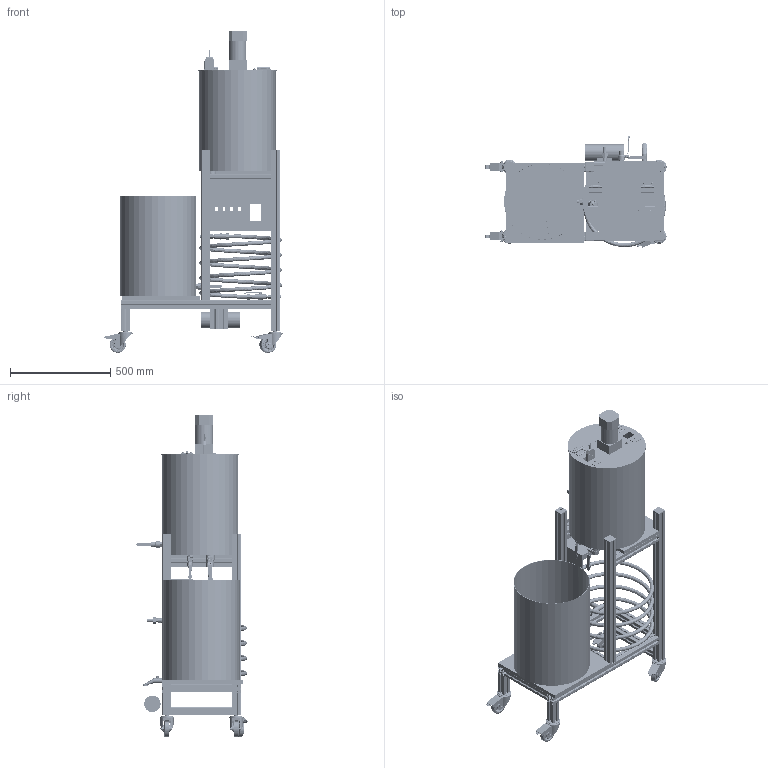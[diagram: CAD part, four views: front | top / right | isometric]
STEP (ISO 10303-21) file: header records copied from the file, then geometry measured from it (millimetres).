
FILE_DESCRIPTION(/* description */ ('Unknown'),/* implementation_level */ '2;1');
FILE_NAME(/* name */ '01_Asm_gesamt_final',/* time_stamp */ '2023-06-15T23:20:17+02:00',/* author */ ('Unknown'),/* organization */ ('Unknown'),/* preprocessor_version */ 'ST-DEVELOPER v18.102',/* originating_system */ 'Solid Edge',/* authorisation */ 'Unknown');
FILE_SCHEMA (('AUTOMOTIVE_DESIGN {1 0 10303 214 3 1 1}'));
Products named in the file (57): 01_Asm_gesamt_final; GestellRev01; profiles_fyapa4545-1100var; profiles_fyapa4545-745var; profiles_fyapa4545-300var; profiles_fyapa4545-800var; Auflage_Maischekessel; profiles_fyapa4040-300var; profiles_fyapa4545-100var; Auflage_LäuterbottichRev01; 451901-esd; profiles_fyapa4545-110var; Maischebottich_mit_Deckel; Deckel_Maischebottich_Bearbeitet_01; Motor_Maischebottich; Scharnier_Deckel; Rechteckprofil_Deckel_Hinten; M5_Mutter; Unterlegscheibe_M5; M6_Mutter; Rechteckprofil_Deckel; Ruehrwerk; M5x20; Winkelblech_Heizstab_groß; Winkelblech_Heizstab_klein; Unterlegscheibe_M5_mir6; Unterlegscheibe_M6; Rohr_Temperatursensor; Unterlegscheibe_M5_mir3; M5x30; Maischekessel_mit_Anschluessen; Maischekessel; Kugelhahn_1-2; Kugelhahn_1; Heizstab; Unterlegscheibe_M5_mir5; Unterlegscheibe_M5_mir51; Asm_Kupplung; Klemme; Unterlegscheibe_M5_mir7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
Assembly tree (126 placements, depth 4):
  01_Asm_gesamt_final
    GestellRev01
      profiles_fyapa4545-1100var  x2
      profiles_fyapa4545-745var  x2
      profiles_fyapa4545-300var  x4
      profiles_fyapa4545-800var  x2
      Auflage_Maischekessel
      profiles_fyapa4040-300var  x4
      profiles_fyapa4545-100var  x2
      Auflage_LäuterbottichRev01
      451901-esd  x4
      profiles_fyapa4545-110var  x2
    Maischebottich_mit_Deckel
      Deckel_Maischebottich_Bearbeitet_01
      Motor_Maischebottich
      Scharnier_Deckel  x2
      Rechteckprofil_Deckel_Hinten
      M5_Mutter  x10
      Unterlegscheibe_M5  x5
      M6_Mutter  x4
      Rechteckprofil_Deckel
      Ruehrwerk
      M5x20  x4
      Winkelblech_Heizstab_groß
      Winkelblech_Heizstab_klein
      Unterlegscheibe_M5_mir6
      Unterlegscheibe_M6  x4
      Rohr_Temperatursensor
      Unterlegscheibe_M5_mir3  x2
      M5x30  x6
      Maischekessel_mit_Anschluessen
        Maischekessel
        Kugelhahn_1-2  x2
        Kugelhahn_1
      Heizstab
      Unterlegscheibe_M5_mir5  x4
      Unterlegscheibe_M5_mir51  x2
      Asm_Kupplung
        Klemme  x2
        Unterlegscheibe_M5
        M5_Mutter  x4
        M5x30  x4
        Unterlegscheibe_M5_mir7
        Unterlegscheibe_M5_mir8
        Unterlegscheibe_M5_mir71
      M8_Mutter
    Kappe_Aluprofil  x4
    Kühler
      Schneidrinng   x4
      Vaterteil_3_4_AG  x3
      WasserzaehlerVerschraubung  x3
      T-Stück_DN15  x2
      KupferrohrHelix
      Schlauchhelix
      Ablaufhahn
    Laeuterbottich_zusammenbau
      Laeuterbottich
      Laeuterblech
      Kugelhahn_1-2
    Pumpe
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Bounding box: 901.46 x 553.77 x 1600 mm (x, y, z)
Volume: 17748094.4 mm3; surface area: 10109666.6 mm2
Topology: 123 solids, 135 shells, 14444 faces, 38963 edges, 25559 vertices
Faces by surface type: plane 7264, cylinder 3335, bspline 2783, cone 743, torus 241, sphere 78
Full cylindrical faces by diameter (mm): 3.688 x4, 3.75 x1, 4 x4, 4.134 x14, 4.917 x4, 5 x14, 5.3 x18, 5.5 x35, 6 x5, 6.4 x4, 7 x16, 7.459 x1, 7.499 x5, 7.5 x1, 8 x18, 8.1 x1, 9 x8, 10 x24, 10.95 x3, 11 x3, 11.63 x8, 12 x21, 12.7 x4, 12.95 x1, 13 x1, 13.324 x1, 13.334 x1, 14 x11, 15 x3, 16 x1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
Entity records: 282295 total; most frequent: CARTESIAN_POINT 104269, ORIENTED_EDGE 34296, DIRECTION 27275, EDGE_CURVE 17148, VERTEX_POINT 11439, LINE 10455, VECTOR 10455, AXIS2_PLACEMENT_3D 8410
